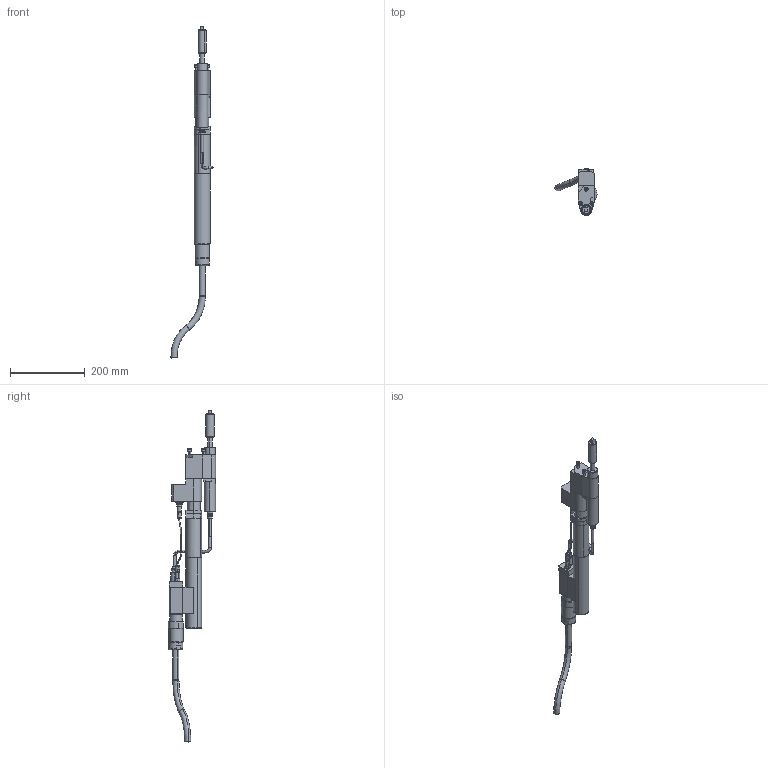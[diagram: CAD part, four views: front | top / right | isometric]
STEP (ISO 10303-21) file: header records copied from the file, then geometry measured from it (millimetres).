
FILE_DESCRIPTION(('CATIA V5 STEP Exchange'),'2;1');
FILE_NAME('O:\3D-Schrauber\Einschauschrauber Groesse1 CATIA V4+V5\7920140_ECR103_DWR35_AOD125-35_AllCATPart.stp','2008-11-06T10:34:24+00:00',('none'),('none'),'CATIA Version 5 Release 16 (IN-10)','CATIA V5 STEP AP203','none');
FILE_SCHEMA(('CONFIG_CONTROL_DESIGN'));
Length unit declared in the file: millimetre
Products named in the file (1): 7920140_ECR103_DWR35_AOD125-35_AllCATPart
Bounding box: 112.82 x 126.27 x 890.66 mm (x, y, z)
Volume: 1314558.4 mm3; surface area: 189356.3 mm2
Topology: 22 solids, 22 shells, 493 faces, 1109 edges, 706 vertices
Faces by surface type: plane 237, cylinder 170, cone 42, torus 40, bspline 4
Entity records: 13390 total; most frequent: CARTESIAN_POINT 3016, ORIENTED_EDGE 2218, DIRECTION 1789, EDGE_CURVE 1109, AXIS2_PLACEMENT_3D 871, VERTEX_POINT 706, VECTOR 559, LINE 559
